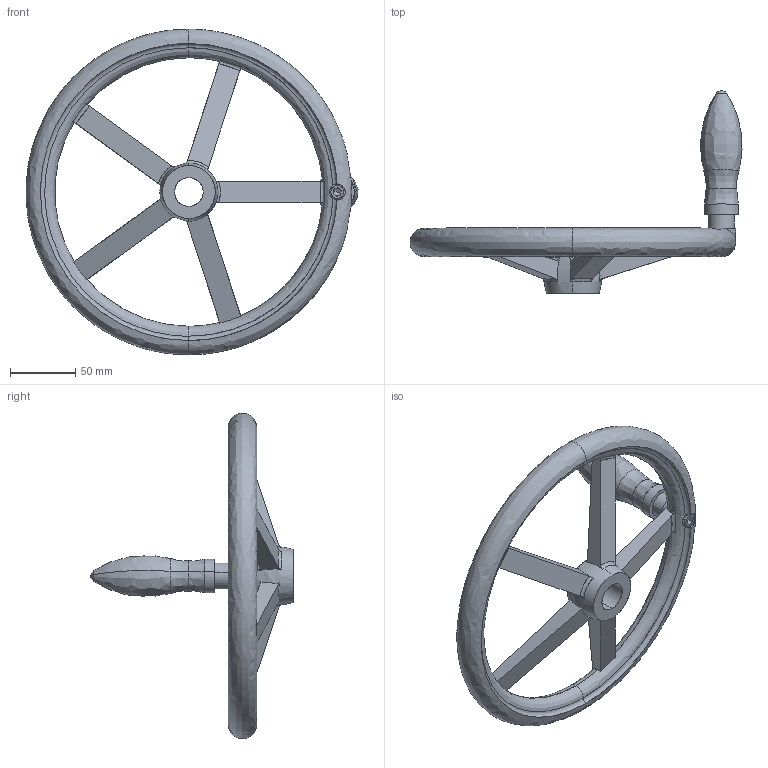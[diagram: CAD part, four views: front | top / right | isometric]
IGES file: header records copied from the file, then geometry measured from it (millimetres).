
Start section: SolidWorks IGES file using analytic representation for surfaces
Global section: file name: C:\Users\IanO\Desktop\Temp File\Process pending\77120_v2\77120_v2_20171108_IGES\77120.W0240.igs; native system: SolidWorks 2017; preprocessor: SolidWorks 2017; author: IanO; date: 171108.083413; units: millimetre
Bounding box: 254.83 x 155.5 x 250 mm (x, y, z)
Surface area: 97546.2 mm2 (no closed solid volume)
Topology: 0 solids, 0 shells, 152 faces, 2099 edges, 2090 vertices
Faces by surface type: bspline 82, revolution 70
